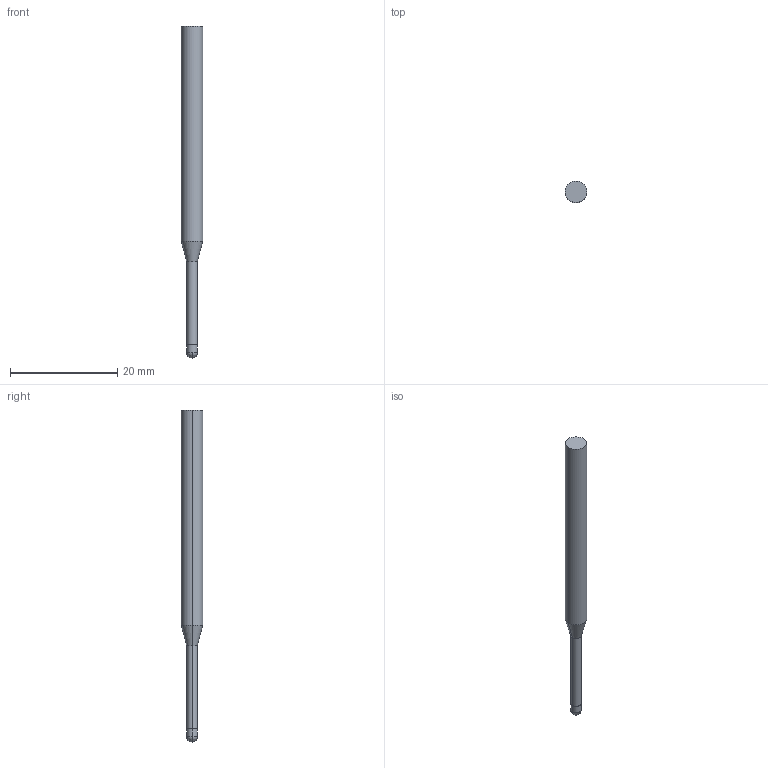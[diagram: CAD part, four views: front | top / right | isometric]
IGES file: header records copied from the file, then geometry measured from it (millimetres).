
Start section: 3D InterOp IGES (v. 2020 1.0.1), Spatial Corp. Copyright (c) 1999-2017.
Global section: file name: WZF28596_2_18.igs; native system: Spatial Corp.; preprocessor: 3D InterOp GENERIC/IGES 3.0; author: Noname; organization: Noname; date: 20201007.093747; units: metre
Bounding box: 4 x 4 x 61.99 mm (x, y, z)
Surface area: 665.2 mm2 (no closed solid volume)
Topology: 0 solids, 0 shells, 14 faces, 56 edges, 52 vertices
Faces by surface type: revolution 12, extrusion 2
